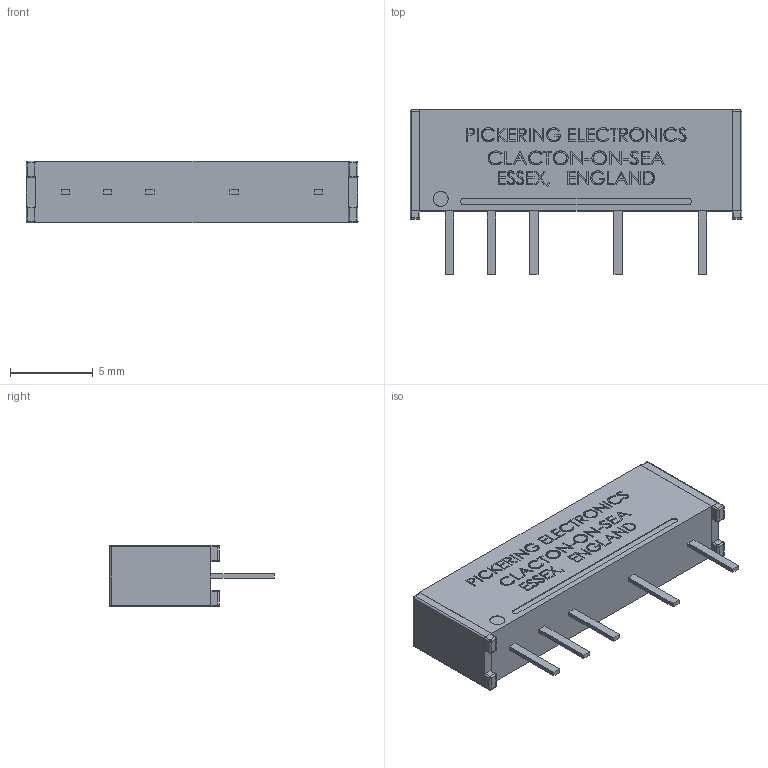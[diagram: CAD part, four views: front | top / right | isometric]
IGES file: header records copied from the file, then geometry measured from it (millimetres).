
Start section: SolidWorks IGES file using analytic representation for surfaces
Global section: file name: T:\Relays in Solidworks\Batch 1 .IGES\108-1-C.IGS; native system: SolidWorks 2009; preprocessor: SolidWorks 2009; author: alex.leming; date: 100629.115020; units: millimetre
Bounding box: 20 x 9.9 x 3.7 mm (x, y, z)
Surface area: 580.2 mm2 (no closed solid volume)
Topology: 0 solids, 0 shells, 1096 faces, 9253 edges, 9233 vertices
Faces by surface type: bspline 1026, revolution 70
